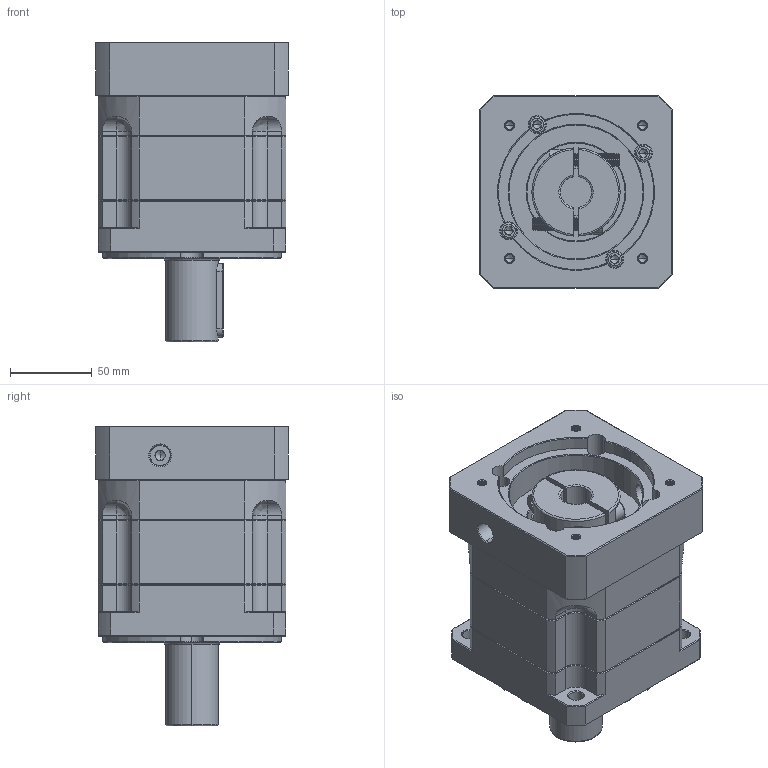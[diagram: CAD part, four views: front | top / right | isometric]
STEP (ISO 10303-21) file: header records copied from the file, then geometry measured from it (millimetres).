
FILE_DESCRIPTION (( 'STEP AP214' ), '1' );
FILE_NAME ('ZB115A-D32-L1-P2-19-95-115-M6.step', '2023-08-26T06:27:56', ( '' ), ( '' ), 'SwSTEP 2.0', 'SolidWorks 2016', '' );
FILE_SCHEMA (( 'AUTOMOTIVE_DESIGN' ));
Length unit declared in the file: millimetre
Products named in the file (1): ZB115A-D32-L1-P2-19-95-115-M6
Bounding box: 118 x 118 x 183.5 mm (x, y, z)
Volume: 1482500.7 mm3; surface area: 162378 mm2
Topology: 6 solids, 6 shells, 2383 faces, 6286 edges, 3999 vertices
Faces by surface type: plane 1144, bspline 443, cylinder 412, cone 384
Entity records: 126721 total; most frequent: CARTESIAN_POINT 45028, ORIENTED_EDGE 12504, DIRECTION 9949, EDGE_CURVE 6252, VERTEX_POINT 3999, LINE 3985, VECTOR 3985, AXIS2_PLACEMENT_3D 2982
